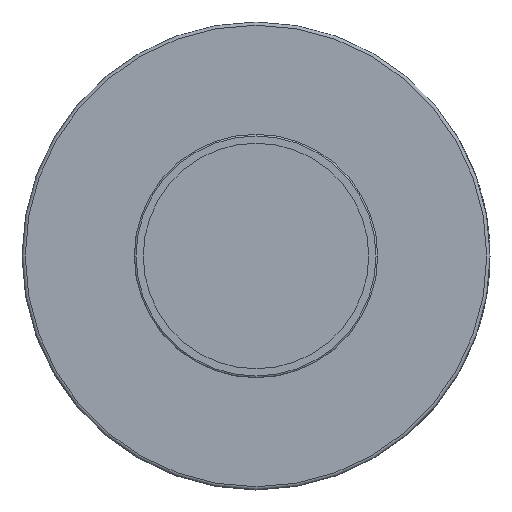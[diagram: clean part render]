
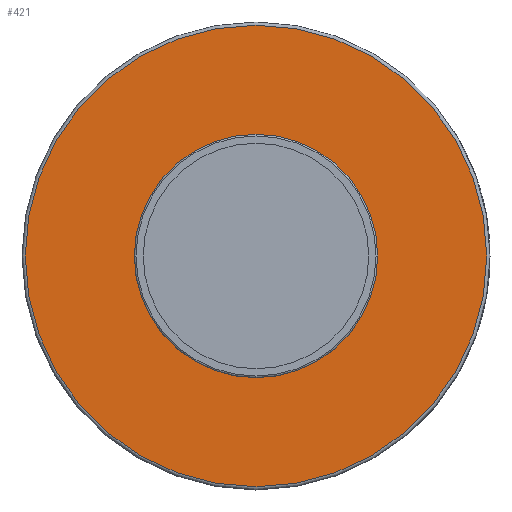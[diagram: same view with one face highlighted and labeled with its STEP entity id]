
A CAD part, left-side view. The second image highlights one B-rep face of the part: STEP entity #421.
In plain terms, the highlighted planar face has unit normal (-1, 0, 0).
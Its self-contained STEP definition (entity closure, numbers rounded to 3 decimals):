
#421 = ADVANCED_FACE( '', ( #956, #957 ), #958, .F. );
#956 = FACE_BOUND( '', #2221, .T. );
#957 = FACE_OUTER_BOUND( '', #2222, .T. );
#958 = PLANE( '', #2223 );
#2221 = EDGE_LOOP( '', ( #3982 ) );
#2222 = EDGE_LOOP( '', ( #3983 ) );
#2223 = AXIS2_PLACEMENT_3D( '', #3984, #3985, #3986 );
#3982 = ORIENTED_EDGE( '', *, *, #5343, .F. );
#3983 = ORIENTED_EDGE( '', *, *, #5344, .T. );
#3984 = CARTESIAN_POINT( '', ( 21.285, 0., 18.987 ) );
#3985 = DIRECTION( '', ( 1., 0., 0. ) );
#3986 = DIRECTION( '', ( 0., 0., -1. ) );
#5343 = EDGE_CURVE( '', #6319, #6319, #6320, .T. );
#5344 = EDGE_CURVE( '', #6321, #6321, #6322, .T. );
#6319 = VERTEX_POINT( '', #8364 );
#6320 = CIRCLE( '', #8365, 18.987 );
#6321 = VERTEX_POINT( '', #8366 );
#6322 = CIRCLE( '', #8367, 36.005 );
#8364 = CARTESIAN_POINT( '', ( 21.285, 0., 18.987 ) );
#8365 = AXIS2_PLACEMENT_3D( '', #9324, #9325, #9326 );
#8366 = CARTESIAN_POINT( '', ( 21.285, 0., 36.005 ) );
#8367 = AXIS2_PLACEMENT_3D( '', #9327, #9328, #9329 );
#9324 = CARTESIAN_POINT( '', ( 21.285, 0., 0. ) );
#9325 = DIRECTION( '', ( -1., 0., 0. ) );
#9326 = DIRECTION( '', ( 0., 0., 1. ) );
#9327 = CARTESIAN_POINT( '', ( 21.285, 0., 0. ) );
#9328 = DIRECTION( '', ( -1., 0., 0. ) );
#9329 = DIRECTION( '', ( 0., 0., 1. ) );
